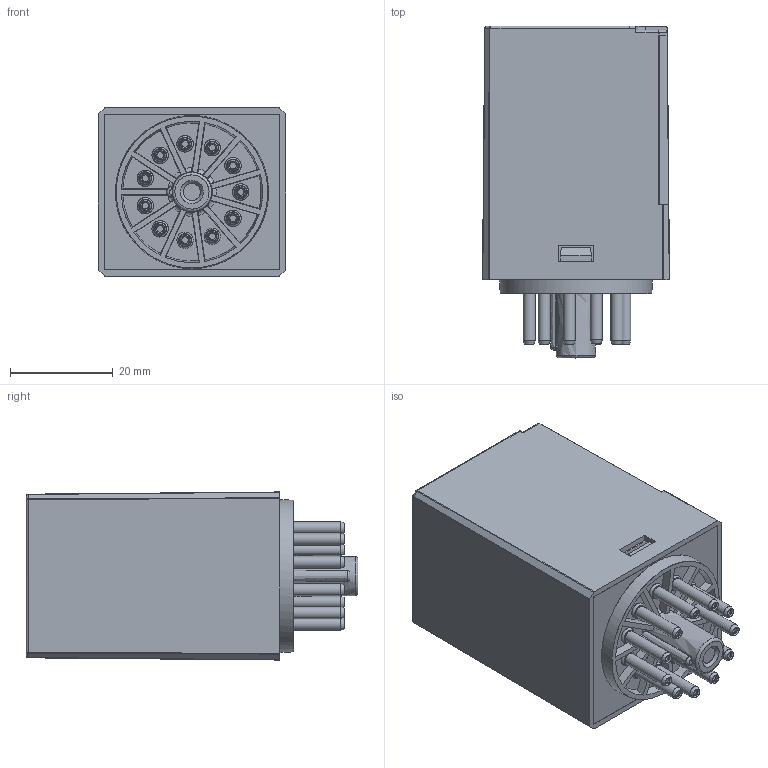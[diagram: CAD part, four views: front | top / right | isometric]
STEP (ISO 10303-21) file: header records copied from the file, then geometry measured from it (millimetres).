
FILE_DESCRIPTION(('STEP AP214'),'2;1');
FILE_NAME('60_13---52.stp','2010-12-03T08:47:20',(''),(''),'2007.1.106','THINKDESIGN','');
FILE_SCHEMA(('AUTOMOTIVE_DESIGN'));
Length unit declared in the file: millimetre
Products named in the file (1): None
Bounding box: 36.5 x 64.75 x 32.8 mm (x, y, z)
Surface area: 11711.8 mm2 (no closed solid volume)
Topology: 0 solids, 0 shells, 255 faces, 1302 edges, 1187 vertices
Faces by surface type: bspline 117, plane 90, cylinder 48
Full cylindrical faces by diameter (mm): 1.65 x11, 2.35 x11
Entity records: 16579 total; most frequent: CARTESIAN_POINT 8615, COMPOSITE_CURVE_SEGMENT 1296, DIRECTION 1071, TRIMMED_CURVE 672, VECTOR 637, LINE 637, OUTER_BOUNDARY_CURVE 255, CURVE_BOUNDED_SURFACE 255
